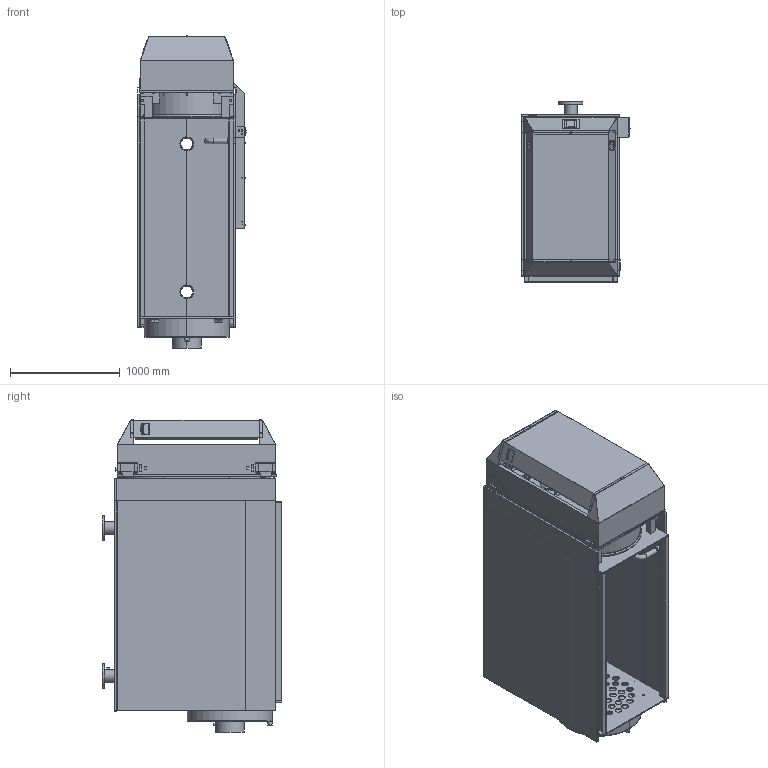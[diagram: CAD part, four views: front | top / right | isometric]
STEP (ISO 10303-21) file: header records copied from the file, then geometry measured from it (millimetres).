
FILE_DESCRIPTION (( 'STEP AP203' ), '1' );
FILE_NAME ('GT3 450.STEP', '2019-03-08T07:27:05', ( '' ), ( '' ), 'SwSTEP 2.0', 'SolidWorks 2019', '' );
FILE_SCHEMA (( 'CONFIG_CONTROL_DESIGN' ));
Products named in the file (1): GT3 450
Bounding box: 990.78 x 1636.5 x 2840.33 mm (x, y, z)
Surface area: 36773204.6 mm2 (no closed solid volume)
Topology: 0 solids, 824 shells, 1931 faces, 10554 edges, 9233 vertices
Faces by surface type: plane 1271, cylinder 424, torus 82, bspline 78, sphere 53, cone 23
Full cylindrical faces by diameter (mm): 0.61 x1, 1.2 x1, 1.3 x11, 1.6 x1, 1.778 x2, 1.803 x1, 2 x3, 2.286 x3, 2.311 x2, 2.47 x2, 2.85 x3, 3 x3, 4 x4, 4.2 x1, 4.5 x1, 5 x3, 5.3 x1, 8 x4, 10 x2, 12 x2, 14 x2, 16 x2, 18 x16, 18.8 x2, 20.1 x4, 25 x2, 26.4 x2, 27 x1, 30 x2, 30.4 x1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
Entity records: 111644 total; most frequent: CARTESIAN_POINT 33858, DIRECTION 14953, ORIENTED_EDGE 11737, EDGE_CURVE 10289, VERTEX_POINT 9170, LINE 6993, VECTOR 6993, AXIS2_PLACEMENT_3D 3980
